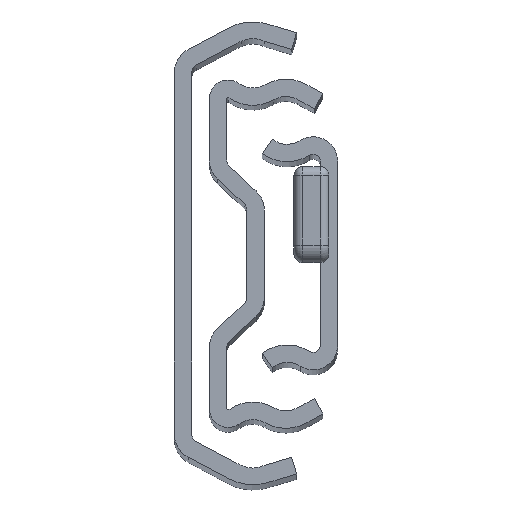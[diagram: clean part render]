
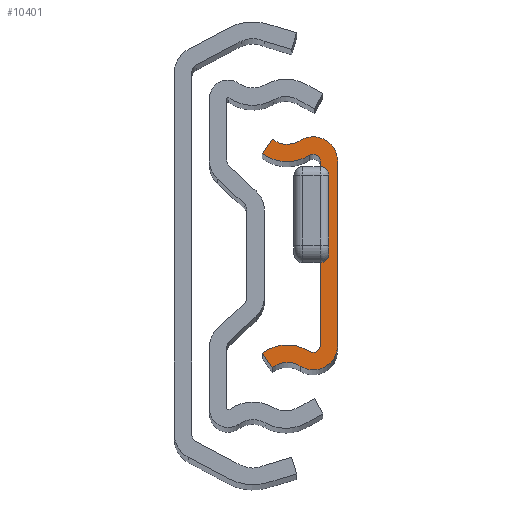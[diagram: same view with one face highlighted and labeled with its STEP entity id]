
A CAD part, top view. The second image highlights one B-rep face of the part: STEP entity #10401.
In plain terms, the highlighted planar face has unit normal (0, 0, 1).
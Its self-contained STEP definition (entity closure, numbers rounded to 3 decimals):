
#53 = DIRECTION ( 'NONE',  ( -0.555, -0.832, 0. ) ) ;
#239 = EDGE_CURVE ( 'NONE', #19712, #7556, #16107, .T. ) ;
#276 = AXIS2_PLACEMENT_3D ( 'NONE', #13657, #10859, #6893 ) ;
#501 = DIRECTION ( 'NONE',  ( 0., 0., 1. ) ) ;
#897 = ORIENTED_EDGE ( 'NONE', *, *, #11293, .T. ) ;
#986 = AXIS2_PLACEMENT_3D ( 'NONE', #22562, #27456, #27653 ) ;
#1417 = CIRCLE ( 'NONE', #13808, 4.8 ) ;
#2192 = DIRECTION ( 'NONE',  ( 0., 1., 0. ) ) ;
#2510 = VERTEX_POINT ( 'NONE', #29240 ) ;
#2877 = DIRECTION ( 'NONE',  ( 1., 0., 0. ) ) ;
#4350 = VERTEX_POINT ( 'NONE', #16059 ) ;
#4567 = ORIENTED_EDGE ( 'NONE', *, *, #18251, .T. ) ;
#4643 = AXIS2_PLACEMENT_3D ( 'NONE', #24068, #501, #2877 ) ;
#4925 = CARTESIAN_POINT ( 'NONE',  ( 1.081, -11.228, 0. ) ) ;
#5016 = CIRCLE ( 'NONE', #12315, 0.8 ) ;
#5088 = DIRECTION ( 'NONE',  ( 0., 0., 1. ) ) ;
#5223 = CIRCLE ( 'NONE', #11171, 2.8 ) ;
#5573 = CIRCLE ( 'NONE', #21711, 2.8 ) ;
#6893 = DIRECTION ( 'NONE',  ( 1., 0., 0. ) ) ;
#6926 = DIRECTION ( 'NONE',  ( 1., 0., 0. ) ) ;
#7000 = VERTEX_POINT ( 'NONE', #19982 ) ;
#7153 = VECTOR ( 'NONE', #20295, 1000. ) ;
#7383 = FACE_OUTER_BOUND ( 'NONE', #22255, .T. ) ;
#7556 = VERTEX_POINT ( 'NONE', #12887 ) ;
#7563 = CARTESIAN_POINT ( 'NONE',  ( -1.47, 15.294, 0. ) ) ;
#7715 = CIRCLE ( 'NONE', #28860, 2.8 ) ;
#8641 = DIRECTION ( 'NONE',  ( 0., -1., 0. ) ) ;
#8814 = LINE ( 'NONE', #9365, #21797 ) ;
#8978 = CARTESIAN_POINT ( 'NONE',  ( 0.018, 12.922, 0. ) ) ;
#9044 = DIRECTION ( 'NONE',  ( 0., 0., -1. ) ) ;
#9168 = EDGE_CURVE ( 'NONE', #7000, #22923, #5223, .T. ) ;
#9365 = CARTESIAN_POINT ( 'NONE',  ( -4.306, 11.422, 0. ) ) ;
#10057 = DIRECTION ( 'NONE',  ( -1., 0., 0. ) ) ;
#10114 = PLANE ( 'NONE',  #4643 ) ;
#10133 = AXIS2_PLACEMENT_3D ( 'NONE', #11645, #30606, #21393 ) ;
#10401 = ADVANCED_FACE ( 'Face2', ( #7383 ), #10114, .T. ) ;
#10407 = CARTESIAN_POINT ( 'NONE',  ( 2.306, -10.55, 0. ) ) ;
#10796 = DIRECTION ( 'NONE',  ( 0., 0., -1. ) ) ;
#10859 = DIRECTION ( 'NONE',  ( 0., 0., 1. ) ) ;
#11161 = EDGE_CURVE ( 'NONE', #22923, #4350, #14346, .T. ) ;
#11171 = AXIS2_PLACEMENT_3D ( 'NONE', #25906, #26004, #6926 ) ;
#11293 = EDGE_CURVE ( 'NONE', #19081, #22524, #1417, .T. ) ;
#11645 = CARTESIAN_POINT ( 'NONE',  ( -1.47, 15.294, 0. ) ) ;
#12185 = EDGE_CURVE ( 'NONE', #2510, #19081, #8814, .T. ) ;
#12315 = AXIS2_PLACEMENT_3D ( 'NONE', #27201, #10796, #27490 ) ;
#12515 = EDGE_CURVE ( 'NONE', #30355, #27990, #22508, .T. ) ;
#12887 = CARTESIAN_POINT ( 'NONE',  ( -4.306, -11.422, 0. ) ) ;
#13199 = ORIENTED_EDGE ( 'NONE', *, *, #17475, .T. ) ;
#13657 = CARTESIAN_POINT ( 'NONE',  ( -1.47, -15.294, 0. ) ) ;
#13808 = AXIS2_PLACEMENT_3D ( 'NONE', #7563, #5088, #10057 ) ;
#14198 = LINE ( 'NONE', #19881, #7153 ) ;
#14346 = LINE ( 'NONE', #21065, #25779 ) ;
#14518 = EDGE_CURVE ( 'NONE', #22524, #30355, #24309, .T. ) ;
#14937 = CARTESIAN_POINT ( 'NONE',  ( -4.306, 11.422, 0. ) ) ;
#14983 = ORIENTED_EDGE ( 'NONE', *, *, #11161, .T. ) ;
#15193 = CARTESIAN_POINT ( 'NONE',  ( -3.194, -13.089, 0. ) ) ;
#15279 = CARTESIAN_POINT ( 'NONE',  ( 1.081, 11.228, 0. ) ) ;
#15618 = VERTEX_POINT ( 'NONE', #8978 ) ;
#15663 = ORIENTED_EDGE ( 'NONE', *, *, #12185, .T. ) ;
#15876 = VERTEX_POINT ( 'NONE', #15193 ) ;
#16059 = CARTESIAN_POINT ( 'NONE',  ( 4.306, 10.55, 0. ) ) ;
#16107 = CIRCLE ( 'NONE', #276, 4.8 ) ;
#16424 = DIRECTION ( 'NONE',  ( -1., 0., 0. ) ) ;
#16542 = EDGE_CURVE ( 'NONE', #27990, #19712, #5016, .T. ) ;
#17475 = EDGE_CURVE ( 'NONE', #15618, #2510, #19819, .T. ) ;
#18251 = EDGE_CURVE ( 'NONE', #7556, #15876, #14198, .T. ) ;
#18672 = ORIENTED_EDGE ( 'NONE', *, *, #16542, .T. ) ;
#19081 = VERTEX_POINT ( 'NONE', #14937 ) ;
#19199 = ORIENTED_EDGE ( 'NONE', *, *, #9168, .T. ) ;
#19283 = ORIENTED_EDGE ( 'NONE', *, *, #14518, .T. ) ;
#19289 = CARTESIAN_POINT ( 'NONE',  ( 4.306, -10.55, 0. ) ) ;
#19712 = VERTEX_POINT ( 'NONE', #4925 ) ;
#19819 = CIRCLE ( 'NONE', #10133, 2.8 ) ;
#19881 = CARTESIAN_POINT ( 'NONE',  ( -4.306, -11.422, 0. ) ) ;
#19982 = CARTESIAN_POINT ( 'NONE',  ( 0.018, -12.922, 0. ) ) ;
#20169 = EDGE_CURVE ( 'NONE', #15876, #7000, #5573, .T. ) ;
#20295 = DIRECTION ( 'NONE',  ( 0.555, -0.832, 0. ) ) ;
#20570 = CARTESIAN_POINT ( 'NONE',  ( 2.306, -10.55, 0. ) ) ;
#20977 = DIRECTION ( 'NONE',  ( 1., 0., 0. ) ) ;
#21065 = CARTESIAN_POINT ( 'NONE',  ( 4.306, -10.55, 0. ) ) ;
#21067 = CARTESIAN_POINT ( 'NONE',  ( -1.47, -15.294, 0. ) ) ;
#21393 = DIRECTION ( 'NONE',  ( -1., 0., 0. ) ) ;
#21711 = AXIS2_PLACEMENT_3D ( 'NONE', #21067, #9044, #20977 ) ;
#21797 = VECTOR ( 'NONE', #53, 1000. ) ;
#22255 = EDGE_LOOP ( 'NONE', ( #23922, #19199, #14983, #23135, #13199, #15663, #897, #19283, #25083, #18672, #25388, #4567 ) ) ;
#22508 = LINE ( 'NONE', #10407, #29811 ) ;
#22524 = VERTEX_POINT ( 'NONE', #15279 ) ;
#22562 = CARTESIAN_POINT ( 'NONE',  ( 1.506, 10.55, 0. ) ) ;
#22923 = VERTEX_POINT ( 'NONE', #19289 ) ;
#22929 = CARTESIAN_POINT ( 'NONE',  ( 2.306, 10.55, 0. ) ) ;
#23135 = ORIENTED_EDGE ( 'NONE', *, *, #27570, .T. ) ;
#23326 = DIRECTION ( 'NONE',  ( 0., 0., 1. ) ) ;
#23922 = ORIENTED_EDGE ( 'NONE', *, *, #20169, .T. ) ;
#24068 = CARTESIAN_POINT ( 'NONE',  ( -1.47, -15.294, 0. ) ) ;
#24309 = CIRCLE ( 'NONE', #986, 0.8 ) ;
#25083 = ORIENTED_EDGE ( 'NONE', *, *, #12515, .T. ) ;
#25388 = ORIENTED_EDGE ( 'NONE', *, *, #239, .T. ) ;
#25779 = VECTOR ( 'NONE', #2192, 1000. ) ;
#25906 = CARTESIAN_POINT ( 'NONE',  ( 1.506, -10.55, 0. ) ) ;
#26004 = DIRECTION ( 'NONE',  ( 0., 0., 1. ) ) ;
#27201 = CARTESIAN_POINT ( 'NONE',  ( 1.506, -10.55, 0. ) ) ;
#27456 = DIRECTION ( 'NONE',  ( 0., 0., -1. ) ) ;
#27490 = DIRECTION ( 'NONE',  ( 1., 0., 0. ) ) ;
#27570 = EDGE_CURVE ( 'NONE', #4350, #15618, #7715, .T. ) ;
#27653 = DIRECTION ( 'NONE',  ( -1., 0., 0. ) ) ;
#27990 = VERTEX_POINT ( 'NONE', #20570 ) ;
#28225 = CARTESIAN_POINT ( 'NONE',  ( 1.506, 10.55, 0. ) ) ;
#28860 = AXIS2_PLACEMENT_3D ( 'NONE', #28225, #23326, #16424 ) ;
#29240 = CARTESIAN_POINT ( 'NONE',  ( -3.194, 13.089, 0. ) ) ;
#29811 = VECTOR ( 'NONE', #8641, 1000. ) ;
#30355 = VERTEX_POINT ( 'NONE', #22929 ) ;
#30606 = DIRECTION ( 'NONE',  ( 0., 0., -1. ) ) ;
